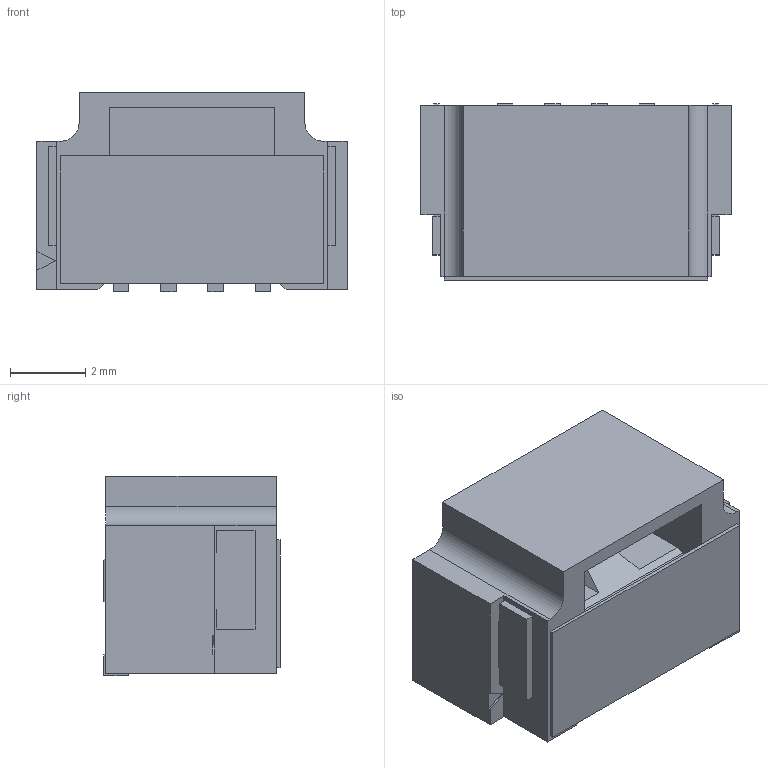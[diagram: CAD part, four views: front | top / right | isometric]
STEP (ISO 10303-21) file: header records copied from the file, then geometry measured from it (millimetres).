
FILE_DESCRIPTION(/* description */ (''),/* implementation_level */ '2;1');
FILE_NAME(/* name */ '2059570471wbm000_01_214.stp',/* time_stamp */ '2024-03-14T10:24:25+06:00',/* author */ (''),/* organization */ (''),/* preprocessor_version */ 'ST-DEVELOPER v16.7',/* originating_system */ 'SIEMENS PLM Software NX 1919',/* authorisation */ '');
FILE_SCHEMA (('AUTOMOTIVE_DESIGN { 1 0 10303 214 3 1 1 1 }'));
Length unit declared in the file: millimetre
Products named in the file (1): 2059570471wbm000_01
Bounding box: 8.25 x 4.69 x 5.3 mm (x, y, z)
Volume: 117.6 mm3; surface area: 376.3 mm2
Topology: 2 solids, 2 shells, 169 faces, 465 edges, 310 vertices
Faces by surface type: plane 155, cylinder 14
Entity records: 5333 total; most frequent: CARTESIAN_POINT 945, ORIENTED_EDGE 930, DIRECTION 833, EDGE_CURVE 465, LINE 437, VECTOR 437, VERTEX_POINT 310, AXIS2_PLACEMENT_3D 198
